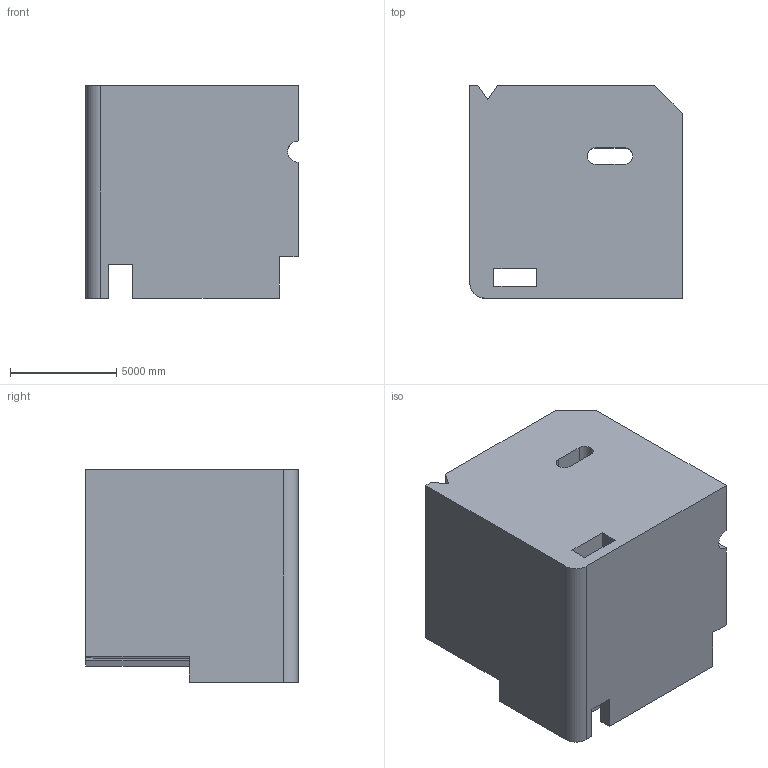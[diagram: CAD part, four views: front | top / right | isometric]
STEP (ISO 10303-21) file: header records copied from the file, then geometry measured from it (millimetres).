
FILE_DESCRIPTION (( 'STEP AP203' ), '1' );
FILE_NAME ('181.STEP', '2022-09-06T15:23:50', ( 'user' ), ( '' ), 'SwSTEP 2.0', 'SolidWorks 2021', '' );
FILE_SCHEMA (( 'CONFIG_CONTROL_DESIGN' ));
Length unit declared in the file: centimetre
Products named in the file (1): 181
Bounding box: 10000 x 10000 x 10000 mm (x, y, z)
Volume: 879479088534.4 mm3; surface area: 692621709.8 mm2
Topology: 1 solids, 1 shells, 34 faces, 99 edges, 66 vertices
Faces by surface type: plane 29, cylinder 5
Entity records: 1194 total; most frequent: CARTESIAN_POINT 212, ORIENTED_EDGE 198, DIRECTION 171, EDGE_CURVE 99, LINE 89, VECTOR 89, VERTEX_POINT 66, AXIS2_PLACEMENT_3D 41
